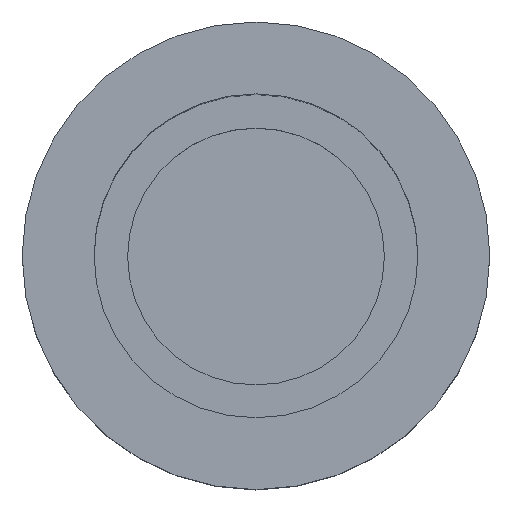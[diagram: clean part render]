
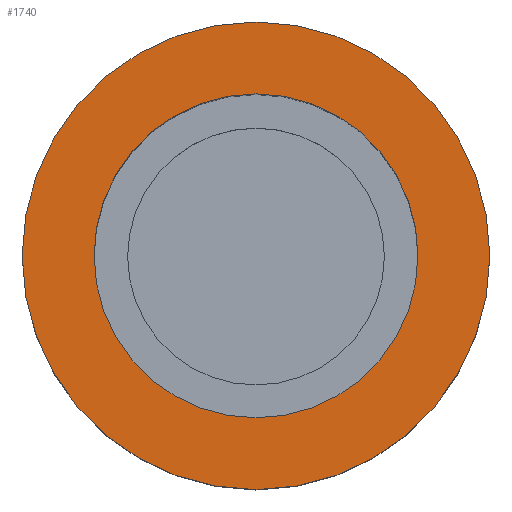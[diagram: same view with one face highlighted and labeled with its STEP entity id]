
A CAD part, top view. The second image highlights one B-rep face of the part: STEP entity #1740.
In plain terms, the highlighted planar face has unit normal (0, 0, 1) as drawn and (1, 0, 0) by its records, which use the part's own axes.
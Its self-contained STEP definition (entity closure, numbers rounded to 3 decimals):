
#900=CARTESIAN_POINT('',(105.151,35.657,0.));
#910=VERTEX_POINT('',#900);
#960=CARTESIAN_POINT('',(105.151,46.757,0.));
#970=DIRECTION('',(-1.,0.,0.));
#980=DIRECTION('',(0.,1.,0.));
#990=AXIS2_PLACEMENT_3D('',#960,#970,#980);
#1000=CIRCLE('',#990,11.1);
#1010=CARTESIAN_POINT('',(105.151,57.857,0.));
#1020=VERTEX_POINT('',#1010);
#1030=EDGE_CURVE('',#910,#1020,#1000,.T.);
#1490=CARTESIAN_POINT('',(105.151,31.957,0.));
#1500=DIRECTION('',(1.,-0.,0.));
#1510=DIRECTION('',(0.,1.,0.));
#1520=AXIS2_PLACEMENT_3D('',#1490,#1500,#1510);
#1530=PLANE('',#1520);
#1540=EDGE_CURVE('',#1020,#910,#1000,.T.);
#1550=ORIENTED_EDGE('',*,*,#1540,.T.);
#1560=ORIENTED_EDGE('',*,*,#1030,.T.);
#1570=EDGE_LOOP('',(#1560,#1550));
#1580=FACE_BOUND('',#1570,.T.);
#1590=CARTESIAN_POINT('',(105.151,46.757,0.));
#1600=DIRECTION('',(-1.,0.,0.));
#1610=DIRECTION('',(0.,1.,0.));
#1620=AXIS2_PLACEMENT_3D('',#1590,#1600,#1610);
#1630=CIRCLE('',#1620,16.025);
#1640=CARTESIAN_POINT('',(105.151,62.782,0.));
#1650=VERTEX_POINT('',#1640);
#1660=CARTESIAN_POINT('',(105.151,30.732,0.));
#1670=VERTEX_POINT('',#1660);
#1680=EDGE_CURVE('',#1650,#1670,#1630,.T.);
#1690=ORIENTED_EDGE('',*,*,#1680,.F.);
#1700=EDGE_CURVE('',#1670,#1650,#1630,.T.);
#1710=ORIENTED_EDGE('',*,*,#1700,.F.);
#1720=EDGE_LOOP('',(#1710,#1690));
#1730=FACE_OUTER_BOUND('',#1720,.T.);
#1740=ADVANCED_FACE('',(#1580,#1730),#1530,.T.);
